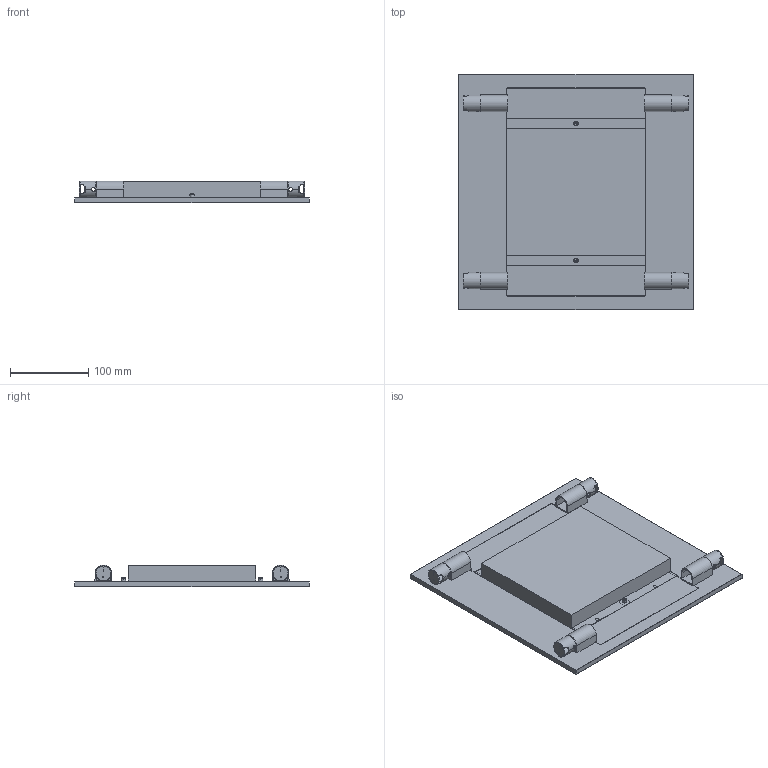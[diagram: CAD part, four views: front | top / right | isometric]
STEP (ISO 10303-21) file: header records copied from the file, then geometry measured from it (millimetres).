
FILE_DESCRIPTION((''),'2;1');
FILE_NAME('BI-EMISSIONE_SW0002','2025-05-20T10:15:54',('elena.baldelli'),(''),'CREO PARAMETRIC BY PTC INC, 2020354','CREO PARAMETRIC BY PTC INC, 2020354','');
FILE_SCHEMA(('CONFIG_CONTROL_DESIGN'));
Length unit declared in the file: millimetre
Products named in the file (1): BI-EMISSIONE_SW0002
Bounding box: 300 x 300 x 27.75 mm (x, y, z)
Surface area: 237546.2 mm2 (no closed solid volume)
Topology: 0 solids, 36 shells, 206 faces, 946 edges, 752 vertices
Faces by surface type: plane 118, cylinder 68, cone 20
Entity records: 10498 total; most frequent: CARTESIAN_POINT 2896, DIRECTION 1542, ORIENTED_EDGE 1388, EDGE_CURVE 946, VERTEX_POINT 752, VECTOR 538, LINE 538, AXIS2_PLACEMENT_3D 502
